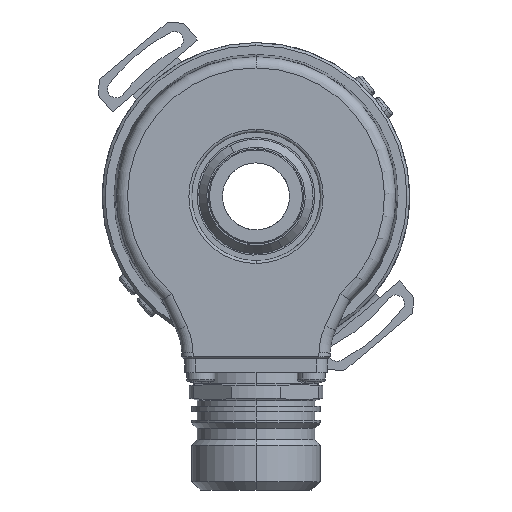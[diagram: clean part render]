
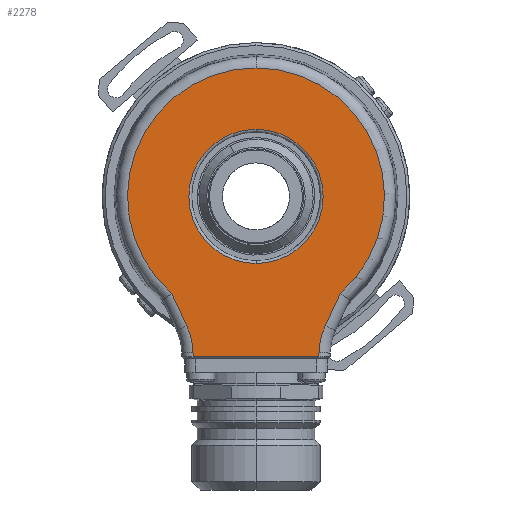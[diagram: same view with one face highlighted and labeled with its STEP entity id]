
A CAD part, left-side view. The second image highlights one B-rep face of the part: STEP entity #2278.
In plain terms, the highlighted planar face has unit normal (-1, 0, 0).
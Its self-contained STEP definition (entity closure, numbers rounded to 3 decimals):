
#2028 = VERTEX_POINT ( 'NONE', #11503 ) ;
#2037 = VERTEX_POINT ( 'NONE', #11490 ) ;
#2042 = EDGE_CURVE ( 'NONE', #2028, #2047, #11489, .T. ) ;
#2043 = EDGE_CURVE ( 'NONE', #2137, #2037, #11477, .T. ) ;
#2047 = VERTEX_POINT ( 'NONE', #11457 ) ;
#2063 = EDGE_CURVE ( 'NONE', #2037, #2416, #11690, .T. ) ;
#2078 = EDGE_CURVE ( 'NONE', #2417, #2028, #11786, .T. ) ;
#2137 = VERTEX_POINT ( 'NONE', #11911 ) ;
#2165 = VERTEX_POINT ( 'NONE', #11973 ) ;
#2167 = EDGE_CURVE ( 'NONE', #2252, #2165, #11972, .T. ) ;
#2177 = EDGE_CURVE ( 'NONE', #2386, #2137, #11949, .T. ) ;
#2206 = VERTEX_POINT ( 'NONE', #12157 ) ;
#2208 = EDGE_CURVE ( 'NONE', #2206, #2223, #12229, .T. ) ;
#2223 = VERTEX_POINT ( 'NONE', #12275 ) ;
#2252 = VERTEX_POINT ( 'NONE', #12549 ) ;
#2277 = EDGE_CURVE ( 'NONE', #2165, #2252, #12506, .T. ) ;
#2278 = ADVANCED_FACE ( 'NONE', ( #12502, #12501 ), #12476, .F. ) ;
#2279 = EDGE_LOOP ( 'NONE', ( #2280, #2281 ) ) ;
#2280 = ORIENTED_EDGE ( 'NONE', *, *, #2167, .T. ) ;
#2281 = ORIENTED_EDGE ( 'NONE', *, *, #2277, .T. ) ;
#2282 = EDGE_LOOP ( 'NONE', ( #2283, #2284, #2565, #2567, #2568, #2569, #2570, #2571, #2572 ) ) ;
#2283 = ORIENTED_EDGE ( 'NONE', *, *, #2358, .T. ) ;
#2284 = ORIENTED_EDGE ( 'NONE', *, *, #2208, .T. ) ;
#2358 = EDGE_CURVE ( 'NONE', #2047, #2206, #12936, .T. ) ;
#2386 = VERTEX_POINT ( 'NONE', #13215 ) ;
#2415 = EDGE_CURVE ( 'NONE', #2416, #2417, #13209, .T. ) ;
#2416 = VERTEX_POINT ( 'NONE', #13205 ) ;
#2417 = VERTEX_POINT ( 'NONE', #13204 ) ;
#2565 = ORIENTED_EDGE ( 'NONE', *, *, #2566, .T. ) ;
#2566 = EDGE_CURVE ( 'NONE', #2223, #2386, #13634, .T. ) ;
#2567 = ORIENTED_EDGE ( 'NONE', *, *, #2177, .T. ) ;
#2568 = ORIENTED_EDGE ( 'NONE', *, *, #2043, .T. ) ;
#2569 = ORIENTED_EDGE ( 'NONE', *, *, #2063, .T. ) ;
#2570 = ORIENTED_EDGE ( 'NONE', *, *, #2415, .T. ) ;
#2571 = ORIENTED_EDGE ( 'NONE', *, *, #2078, .T. ) ;
#2572 = ORIENTED_EDGE ( 'NONE', *, *, #2042, .T. ) ;
#11457 = CARTESIAN_POINT ( 'NONE',  ( -21., 11.268, -27.974 ) ) ;
#11474 = DIRECTION ( 'NONE',  ( 0., -0.423, 0.906 ) ) ;
#11475 = VECTOR ( 'NONE', #11474, 1000. ) ;
#11476 = CARTESIAN_POINT ( 'NONE',  ( -21., -14.953, -17.615 ) ) ;
#11477 = LINE ( 'NONE', #11476, #11475 ) ;
#11485 = DIRECTION ( 'NONE',  ( 0., 0., 1. ) ) ;
#11486 = DIRECTION ( 'NONE',  ( 1., 0., 0. ) ) ;
#11487 = CARTESIAN_POINT ( 'NONE',  ( -21., 23.266, -28.183 ) ) ;
#11488 = AXIS2_PLACEMENT_3D ( 'NONE', #11487, #11486, #11485 ) ;
#11489 = CIRCLE ( 'NONE', #11488, 12. ) ;
#11490 = CARTESIAN_POINT ( 'NONE',  ( -21., -15.091, -17.32 ) ) ;
#11503 = CARTESIAN_POINT ( 'NONE',  ( -21., 12.39, -23.112 ) ) ;
#11690 = CIRCLE ( 'NONE', #11827, 22.972 ) ;
#11729 = DIRECTION ( 'NONE',  ( 0., 0., 1. ) ) ;
#11730 = DIRECTION ( 'NONE',  ( -1., 0., 0. ) ) ;
#11731 = CARTESIAN_POINT ( 'NONE',  ( -21., 0., 0. ) ) ;
#11783 = DIRECTION ( 'NONE',  ( 0., -0.423, -0.906 ) ) ;
#11784 = VECTOR ( 'NONE', #11783, 1000. ) ;
#11785 = CARTESIAN_POINT ( 'NONE',  ( -21., 12.39, -23.112 ) ) ;
#11786 = LINE ( 'NONE', #11785, #11784 ) ;
#11827 = AXIS2_PLACEMENT_3D ( 'NONE', #11731, #11730, #11729 ) ;
#11911 = CARTESIAN_POINT ( 'NONE',  ( -21., -12.39, -23.112 ) ) ;
#11943 = DIRECTION ( 'NONE',  ( 0., 0., 1. ) ) ;
#11946 = DIRECTION ( 'NONE',  ( 1., 0., 0. ) ) ;
#11947 = CARTESIAN_POINT ( 'NONE',  ( -21., -23.266, -28.183 ) ) ;
#11948 = AXIS2_PLACEMENT_3D ( 'NONE', #11947, #11946, #11943 ) ;
#11949 = CIRCLE ( 'NONE', #11948, 12. ) ;
#11968 = DIRECTION ( 'NONE',  ( 0., 0., 1. ) ) ;
#11969 = DIRECTION ( 'NONE',  ( 1., 0., 0. ) ) ;
#11970 = CARTESIAN_POINT ( 'NONE',  ( -21., 0., 0. ) ) ;
#11971 = AXIS2_PLACEMENT_3D ( 'NONE', #11970, #11969, #11968 ) ;
#11972 = CIRCLE ( 'NONE', #11971, 12. ) ;
#11973 = CARTESIAN_POINT ( 'NONE',  ( -21., 0., -12. ) ) ;
#12157 = CARTESIAN_POINT ( 'NONE',  ( -21., 11.255, -28.695 ) ) ;
#12226 = DIRECTION ( 'NONE',  ( 0., -1., 0. ) ) ;
#12227 = VECTOR ( 'NONE', #12226, 1000. ) ;
#12228 = CARTESIAN_POINT ( 'NONE',  ( -21., -11.25, -28.695 ) ) ;
#12229 = LINE ( 'NONE', #12228, #12227 ) ;
#12275 = CARTESIAN_POINT ( 'NONE',  ( -21., -11.255, -28.695 ) ) ;
#12472 = DIRECTION ( 'NONE',  ( 0., 0., 1. ) ) ;
#12473 = DIRECTION ( 'NONE',  ( 1., 0., 0. ) ) ;
#12474 = CARTESIAN_POINT ( 'NONE',  ( -21., 0., 0. ) ) ;
#12475 = AXIS2_PLACEMENT_3D ( 'NONE', #12474, #12473, #12472 ) ;
#12476 = PLANE ( 'NONE',  #12475 ) ;
#12501 = FACE_OUTER_BOUND ( 'NONE', #2282, .T. ) ;
#12502 = FACE_BOUND ( 'NONE', #2279, .T. ) ;
#12503 = DIRECTION ( 'NONE',  ( 0., 0., 1. ) ) ;
#12504 = DIRECTION ( 'NONE',  ( 1., 0., 0. ) ) ;
#12505 = AXIS2_PLACEMENT_3D ( 'NONE', #12516, #12504, #12503 ) ;
#12506 = CIRCLE ( 'NONE', #12505, 12. ) ;
#12516 = CARTESIAN_POINT ( 'NONE',  ( -21., 0., 0. ) ) ;
#12549 = CARTESIAN_POINT ( 'NONE',  ( -21., 0., 12. ) ) ;
#12878 = CARTESIAN_POINT ( 'NONE',  ( -21., 11.752, -0.205 ) ) ;
#12936 = LINE ( 'NONE', #12878, #12946 ) ;
#12946 = VECTOR ( 'NONE', #12948, 1000. ) ;
#12948 = DIRECTION ( 'NONE',  ( 0., -0.017, -1. ) ) ;
#13053 = CARTESIAN_POINT ( 'NONE',  ( -21., 0., 0. ) ) ;
#13204 = CARTESIAN_POINT ( 'NONE',  ( -21., 15.091, -17.32 ) ) ;
#13205 = CARTESIAN_POINT ( 'NONE',  ( -21., 0., 22.972 ) ) ;
#13206 = DIRECTION ( 'NONE',  ( 0., 0., 1. ) ) ;
#13207 = DIRECTION ( 'NONE',  ( -1., 0., 0. ) ) ;
#13208 = AXIS2_PLACEMENT_3D ( 'NONE', #13053, #13207, #13206 ) ;
#13209 = CIRCLE ( 'NONE', #13208, 22.972 ) ;
#13215 = CARTESIAN_POINT ( 'NONE',  ( -21., -11.268, -27.974 ) ) ;
#13631 = DIRECTION ( 'NONE',  ( 0., -0.017, 1. ) ) ;
#13632 = VECTOR ( 'NONE', #13631, 1000. ) ;
#13633 = CARTESIAN_POINT ( 'NONE',  ( -21., -11.752, -0.205 ) ) ;
#13634 = LINE ( 'NONE', #13633, #13632 ) ;
